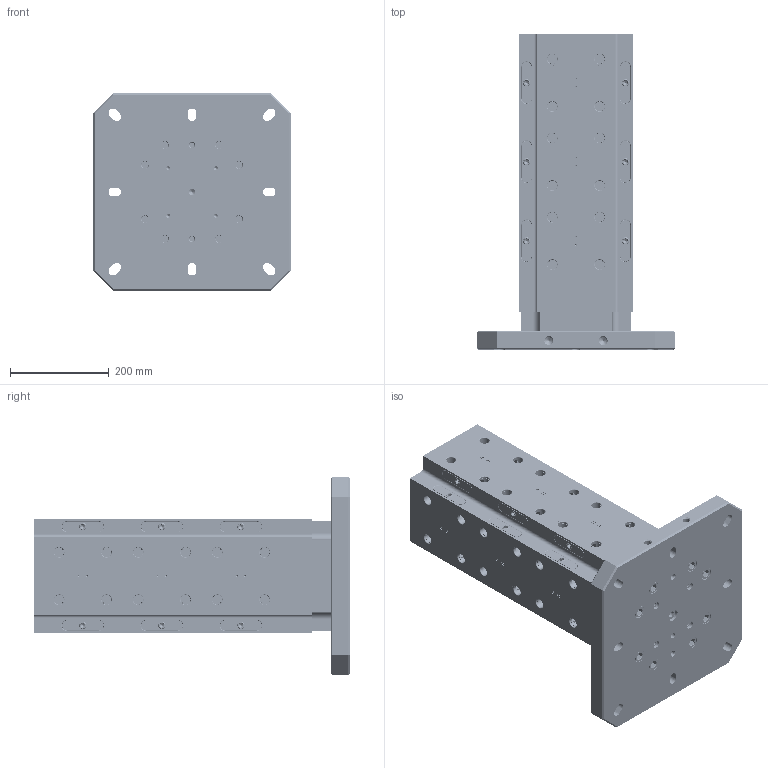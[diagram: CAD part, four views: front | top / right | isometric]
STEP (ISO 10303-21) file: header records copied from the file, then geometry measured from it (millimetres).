
FILE_DESCRIPTION (( 'STEP AP214' ), '1' );
FILE_NAME ('RL96A-4004U-638_WEBSITE.step', '2025-08-11T11:22:35', ( '' ), ( '' ), 'SwSTEP 2.0', 'SolidWorks 2025', '' );
FILE_SCHEMA (( 'AUTOMOTIVE_DESIGN' ));
Length unit declared in the file: inch
Products named in the file (13): RL96A-4004U-638_WEBSITE; SB54_WEBSITE_FINISHED PART; RL96-4004BUA_WEBSITE; HW27X20.DB_WEBSITE_PLATING; RL96-2L_WEBSITE; RL96-2R_WEBSITE_PLATING; HW.76172_WEBSITE; RL96-4004-600A_WEBSITE; HW.76452_WEBSITE_91290A835; M10x020.DP_WEBSITE_91595A640; RL96-14TC_WEBSITE; MT-4600A_WEBSITE_MACHINING; RL96-3_WEBSITE_PLATING
Assembly tree (126 placements, depth 3):
  RL96A-4004U-638_WEBSITE
    RL96-4004-600A_WEBSITE
      MT-4600A_WEBSITE_MACHINING
      RL96-4004BUA_WEBSITE
      HW.76452_WEBSITE_91290A835  x8
      M10x020.DP_WEBSITE_91595A640  x2
    RL96-2R_WEBSITE_PLATING  x12
    RL96-2L_WEBSITE  x12
    RL96-3_WEBSITE_PLATING  x12
    HW27X20.DB_WEBSITE_PLATING  x48
    SB54_WEBSITE_FINISHED PART  x24
    RL96-14TC_WEBSITE
    HW.76172_WEBSITE  x4
Bounding box: 400 x 638.1 x 400 mm (x, y, z)
Volume: 23648824 mm3; surface area: 2124177.3 mm2
Topology: 125 solids, 125 shells, 3851 faces, 8784 edges, 5531 vertices
Faces by surface type: plane 2286, cylinder 1132, cone 309, torus 120, sphere 4
Full cylindrical faces by diameter (mm): 2.642 x24, 3.3 x24, 4 x24, 4.7 x24, 5 x28, 5.182 x24, 6 x4, 6.6 x4, 8.204 x24, 8.5 x4, 9 x24, 9.525 x24, 10 x6, 10.025 x4, 10.2 x4, 10.795 x12, 11 x4, 11.938 x48, 12 x1, 12.573 x48, 14 x36, 15.748 x24, 16 x8, 16.02 x4, 17.5 x16, 19.05 x24, 19.101 x48, 20 x12, 20.015 x48, 20.035 x48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
Entity records: 46708 total; most frequent: CARTESIAN_POINT 12430, DIRECTION 7252, ORIENTED_EDGE 5468, AXIS2_PLACEMENT_3D 3084, EDGE_CURVE 2734, EDGE_LOOP 2496, VERTEX_POINT 2038, FACE_OUTER_BOUND 1958
